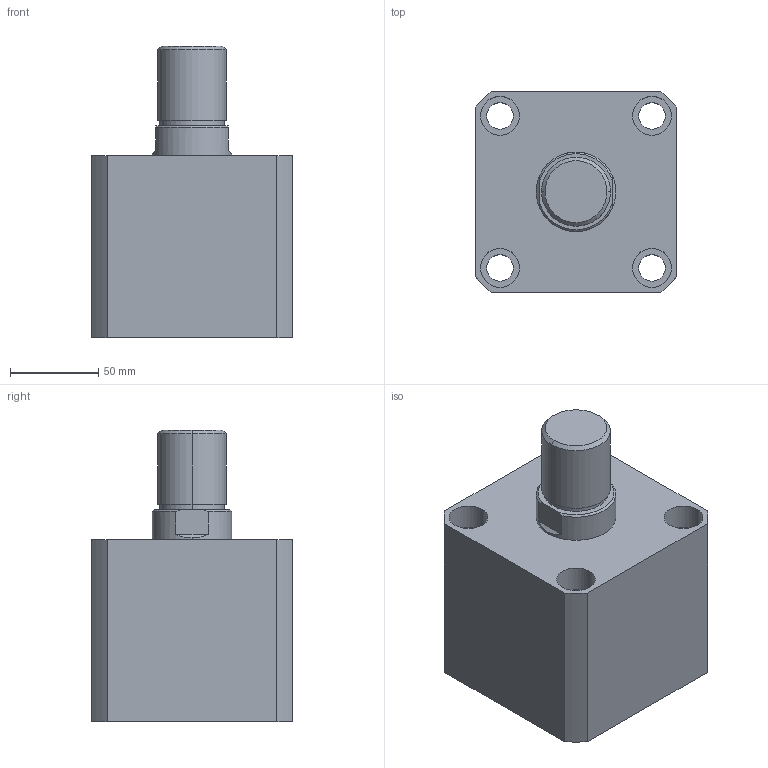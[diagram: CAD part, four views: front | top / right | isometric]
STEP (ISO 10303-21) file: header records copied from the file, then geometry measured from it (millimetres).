
FILE_DESCRIPTION (( 'STEP AP203' ), '1' );
FILE_NAME ('HTB-SDMB80-25W.STEP', '2019-10-09T06:01:02', ( '微软用户' ), ( '微软中国' ), 'SwSTEP 2.0', 'SolidWorks 2012', '' );
FILE_SCHEMA (( 'CONFIG_CONTROL_DESIGN' ));
Length unit declared in the file: millimetre
Products named in the file (3): HTB-SDMB80-25掛极; HTB-SDMB80-25W活塞杆; HTB-SDMB80-25W
Assembly tree (2 placements, depth 2):
  HTB-SDMB80-25W
    HTB-SDMB80-25掛极
    HTB-SDMB80-25W活塞杆
Bounding box: 114 x 114 x 165 mm (x, y, z)
Volume: 1217695.5 mm3; surface area: 150884.4 mm2
Topology: 2 solids, 2 shells, 141 faces, 337 edges, 222 vertices
Faces by surface type: plane 67, cylinder 48, bspline 16, torus 6, cone 4
Entity records: 5180 total; most frequent: CARTESIAN_POINT 1597, ORIENTED_EDGE 674, DIRECTION 669, EDGE_CURVE 337, AXIS2_PLACEMENT_3D 242, VERTEX_POINT 222, VECTOR 185, LINE 185
